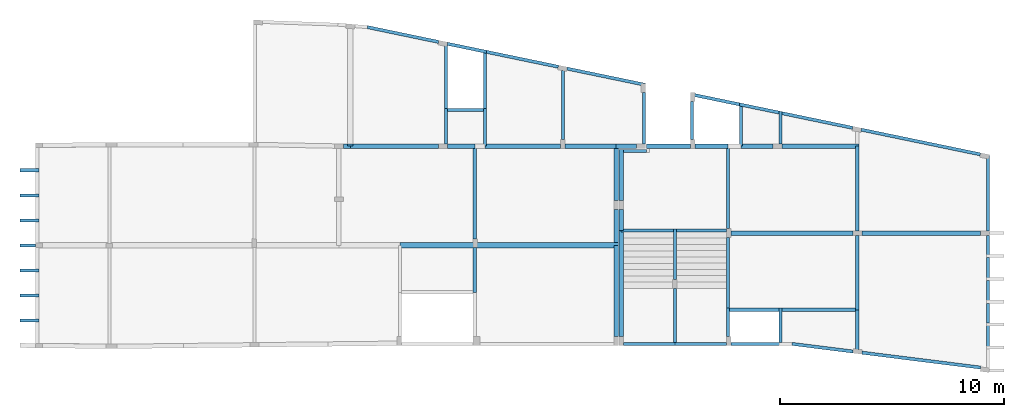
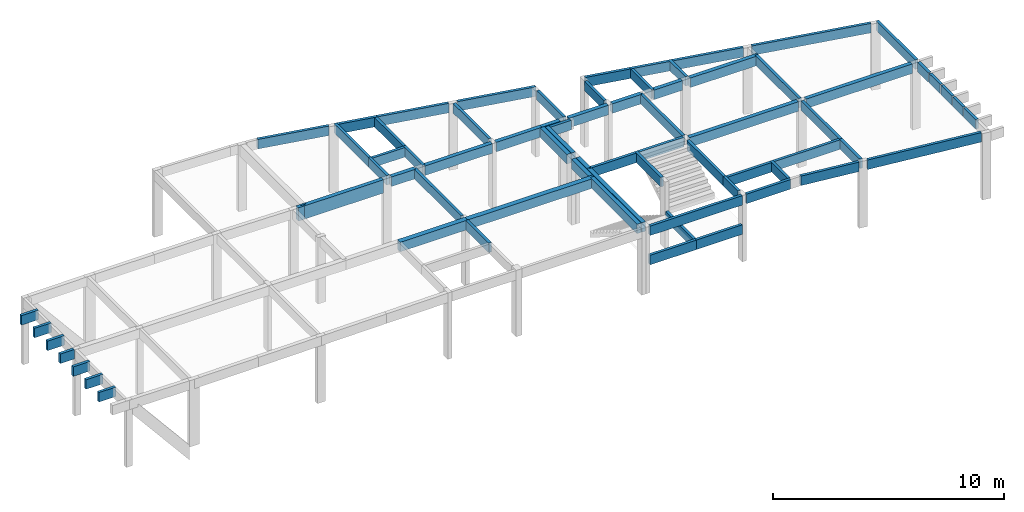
# One storey, part 2 of 4: 74 beams.
"""IFC4 building model written with IfcOpenShell, lengths in centimetres."""

from ifc_helpers import new_model, si_unit, derived_unit, frame, origin, origin_with_axes, origin_2d_with_axis, place, context, project, spatial, rectangle, extrude, clip, halfspace, material, element, save


model = new_model("IFC4")

# Units and contexts
model_context = context("Model", 3, precision=1e-05, world=origin_with_axes(), identifier="Body")
ifc_project = project(units=[si_unit("LENGTHUNIT", "METRE", prefix="CENTI"), si_unit("VOLUMEUNIT", "CUBIC_METRE"), si_unit("AREAUNIT", "SQUARE_METRE"), si_unit("POWERUNIT", "WATT"), si_unit("LUMINOUSFLUXUNIT", "LUMEN"), si_unit("ELECTRICCURRENTUNIT", "AMPERE"), si_unit("PRESSUREUNIT", "PASCAL", prefix="KILO"), si_unit("MASSUNIT", "GRAM", prefix="KILO"), si_unit("PLANEANGLEUNIT", "RADIAN"), derived_unit("VOLUMETRICFLOWRATEUNIT", [(si_unit("LENGTHUNIT", "METRE"), 3), (si_unit("TIMEUNIT", "SECOND"), -1)])], contexts=[model_context])

# Site, building, storey
site_placement = place(None, origin_with_axes())
site = spatial("IfcSite", under=ifc_project, at=site_placement)
building_placement = place(site_placement, origin())
building = spatial("IfcBuilding", under=site, at=building_placement)
placement_1 = place(building_placement, origin_with_axes())
placement_2 = place(placement_1, frame((0.0, 0.0, 550.0), z_axis=(0.0, 0.0, 1.0), x_axis=(1.0, 0.0, 0.0)))
placement_3 = place(placement_2, frame((0.0, 0.0, 350.0), z_axis=(0.0, 0.0, 1.0), x_axis=(1.0, 0.0, 0.0)))
storey_placement = place(placement_3, frame((0.0, 0.0, 350.0), z_axis=(0.0, 0.0, 1.0), x_axis=(1.0, 0.0, 0.0)))
storey = spatial("IfcBuildingStorey", under=building, at=storey_placement, Name="2º PAV.", CompositionType="ELEMENT", Elevation=1250.0)

# Beams
ifc_material = material(Name="Concreto")
for number, where, z_axis, x_axis in (
    (1, (2788.6, -1337.1, -154.5), (0.0, 0.0, 1.0), (1.0, 0.0, 0.0)),
    (2, (3018.6, -1337.1, -154.5), (0.0, 0.0, 1.0), (1.0, 0.0, 0.0)),
):
    element("IfcBeam", number, at=place(storey_placement, frame(where, z_axis=z_axis, x_axis=x_axis)), inside=storey, material=ifc_material, Name="V.ESCADA1", context=model_context, shape_type="SolidModel", body=[
        extrude(rectangle(XDim=14.0, YDim=50.0, at=origin_2d_with_axis()), frame((-115.0, 0.0, -25.0), z_axis=(1.0, 0.0, 0.0), x_axis=(0.0, 1.0, 0.0)), (0.0, 0.0, 1.0), 230.0),
    ])
beam_1_placement = place(storey_placement, frame((2903.6, -1213.6, -154.5), z_axis=(0.0, 0.0, 1.0), x_axis=(1.0, 0.0, 0.0)))
element("IfcBeam", 3, at=beam_1_placement, inside=storey, material=ifc_material, Name="V.ESCADA2", context=model_context, shape_type="SolidModel", body=[
    extrude(rectangle(XDim=14.0, YDim=50.0, at=origin_2d_with_axis()), frame((0.0, -123.5, -25.0), z_axis=(0.0, 1.0, 0.0), x_axis=(1.0, 0.0, 0.0)), (0.0, 0.0, 1.0), 247.0),
])
beam_2_placement = place(storey_placement, frame((1971.0, -294.95, 0.0), z_axis=(0.0, 0.0, 1.0), x_axis=(1.0, 0.0, 0.0)))
element("IfcBeam", 4, at=beam_2_placement, inside=storey, material=ifc_material, Name="V1", context=model_context, shape_type="SolidModel", body=[
    extrude(rectangle(XDim=14.0, YDim=50.0, at=origin_2d_with_axis()), frame((-80.0, 0.0, -25.0), z_axis=(1.0, 0.0, 0.0), x_axis=(0.0, 1.0, 0.0)), (0.0, 0.0, 1.0), 160.0),
])
beam_3_placement = place(storey_placement, frame((3425.1, -843.1, 0.0), z_axis=(0.0, 0.0, 1.0), x_axis=(1.0, 0.0, 0.0)))
element("IfcBeam", 5, at=beam_3_placement, inside=storey, material=ifc_material, Name="V10", context=model_context, shape_type="SolidModel", body=[
    extrude(rectangle(XDim=20.0, YDim=50.0, at=origin_2d_with_axis()), frame((-271.5, 0.0, -25.0), z_axis=(1.0, 0.0, 0.0), x_axis=(0.0, 1.0, 0.0)), (0.0, 0.0, 1.0), 543.0),
])
beam_4_placement = place(storey_placement, frame((4001.1, -843.1, 0.0), z_axis=(0.0, 0.0, 1.0), x_axis=(1.0, 0.0, 0.0)))
element("IfcBeam", 6, at=beam_4_placement, inside=storey, material=ifc_material, Name="V10", context=model_context, shape_type="SolidModel", body=[
    extrude(rectangle(XDim=20.0, YDim=50.0, at=origin_2d_with_axis()), frame((-264.5, 0.0, -25.0), z_axis=(1.0, 0.0, 0.0), x_axis=(0.0, 1.0, 0.0)), (0.0, 0.0, 1.0), 529.0),
])
beam_5_placement = place(storey_placement, frame((19.575, -898.05, 0.0), z_axis=(0.0, 0.0, 1.0), x_axis=(1.0, 0.0, 0.0)))
element("IfcBeam", 7, at=beam_5_placement, inside=storey, material=ifc_material, Name="V12", context=model_context, shape_type="SolidModel", body=[
    extrude(rectangle(XDim=14.0, YDim=50.0, at=origin_2d_with_axis()), frame((-34.975, 0.0, -25.0), z_axis=(1.0, 0.0, 0.0), x_axis=(0.0, -1.0, 0.0)), (0.0, 0.0, 1.0), 69.95),
])
beam_6_placement = place(storey_placement, frame((2333.1, -898.02, 0.0), z_axis=(0.0, 0.0, 1.0), x_axis=(1.0, 0.0, 0.0)))
element("IfcBeam", 8, at=beam_6_placement, inside=storey, material=ifc_material, Name="V13", context=model_context, shape_type="SolidModel", body=[
    extrude(rectangle(XDim=25.0, YDim=50.0, at=origin_2d_with_axis()), frame((-318.5, 0.0, -25.0), z_axis=(1.0, 0.0, 0.0), x_axis=(0.0, 1.0, 0.0)), (0.0, 0.0, 1.0), 637.0),
])
beam_7_placement = place(storey_placement, frame((1846.1, -898.02, 0.0), z_axis=(0.0, 0.0, 1.0), x_axis=(1.0, 0.0, 0.0)))
element("IfcBeam", 9, at=beam_7_placement, inside=storey, material=ifc_material, Name="V13", context=model_context, shape_type="SolidModel", body=[
    extrude(rectangle(XDim=25.0, YDim=50.0, at=origin_2d_with_axis()), frame((-168.5, 0.0, -25.0), z_axis=(1.0, 0.0, 0.0), x_axis=(0.0, 1.0, 0.0)), (0.0, 0.0, 1.0), 337.0),
])
for number, where, z_axis, x_axis, name in (
    (10, (26.6, -1009.6, 0.0), (0.0, 0.0, 1.0), (1.0, 0.0, 0.0), "V15"),
    (11, (26.6, -1121.2, 0.0), (0.0, 0.0, 1.0), (1.0, 0.0, 0.0), "V17"),
):
    element("IfcBeam", number, at=place(storey_placement, frame(where, z_axis=z_axis, x_axis=x_axis)), inside=storey, material=ifc_material, Name=name, context=model_context, shape_type="SolidModel", body=[
        extrude(rectangle(XDim=14.0, YDim=50.0, at=origin_2d_with_axis()), frame((-42.0, 0.0, -25.0), z_axis=(1.0, 0.0, 0.0), x_axis=(0.0, -1.0, 0.0)), (0.0, 0.0, 1.0), 84.0),
    ])
beam_8_placement = place(storey_placement, frame((3545.6, -1184.9, 0.0), z_axis=(0.0, 0.0, 1.0), x_axis=(1.0, 0.0, 0.0)))
element("IfcBeam", 12, at=beam_8_placement, inside=storey, material=ifc_material, Name="V19", context=model_context, shape_type="SolidModel", body=[
    extrude(rectangle(XDim=14.0, YDim=50.0, at=origin_2d_with_axis()), frame((-171.0, 0.0, -25.0), z_axis=(1.0, 0.0, 0.0), x_axis=(0.0, 1.0, 0.0)), (0.0, 0.0, 1.0), 342.0),
])
beam_9_placement = place(storey_placement, frame((3257.6, -1184.9, 0.0), z_axis=(0.0, 0.0, 1.0), x_axis=(1.0, 0.0, 0.0)))
element("IfcBeam", 13, at=beam_9_placement, inside=storey, material=ifc_material, Name="V19", context=model_context, shape_type="SolidModel", body=[
    extrude(rectangle(XDim=14.0, YDim=50.0, at=origin_2d_with_axis()), frame((-110.0, 0.0, -25.0), z_axis=(1.0, 0.0, 0.0), x_axis=(0.0, 1.0, 0.0)), (0.0, 0.0, 1.0), 220.0),
])
beam_10_placement = place(storey_placement, frame((26.6, -1232.8, 0.0), z_axis=(0.0, 0.0, 1.0), x_axis=(1.0, 0.0, 0.0)))
element("IfcBeam", 14, at=beam_10_placement, inside=storey, material=ifc_material, Name="V21", context=model_context, shape_type="SolidModel", body=[
    extrude(rectangle(XDim=14.0, YDim=50.0, at=origin_2d_with_axis()), frame((-42.0, 0.0, -25.0), z_axis=(1.0, 0.0, 0.0), x_axis=(0.0, -1.0, 0.0)), (0.0, 0.0, 1.0), 84.0),
])
beam_11_placement = place(storey_placement, frame((1441.55, -455.9, 0.0), z_axis=(0.0, 0.0, 1.0), x_axis=(1.0, 0.0, 0.0)))
element("IfcBeam", 15, at=beam_11_placement, inside=storey, material=ifc_material, Name="V3", context=model_context, shape_type="SolidModel", body=[
    extrude(rectangle(XDim=20.0, YDim=70.0, at=origin_2d_with_axis()), frame((-15.55, 0.0, -35.0), z_axis=(1.0, 0.0, 0.0), x_axis=(0.0, 1.0, 0.0)), (0.0, 0.0, 1.0), 31.1),
])
beam_12_placement = place(storey_placement, frame((1654.05, -455.9, 0.0), z_axis=(0.0, 0.0, 1.0), x_axis=(1.0, 0.0, 0.0)))
element("IfcBeam", 16, at=beam_12_placement, inside=storey, material=ifc_material, Name="V3", context=model_context, shape_type="SolidModel", body=[
    extrude(rectangle(XDim=20.0, YDim=70.0, at=origin_2d_with_axis()), frame((-196.95, 0.0, -35.0), z_axis=(1.0, 0.0, 0.0), x_axis=(0.0, 1.0, 0.0)), (0.0, 0.0, 1.0), 393.9),
])
beam_13_placement = place(storey_placement, frame((1951.3, -455.9, 0.0), z_axis=(0.0, 0.0, 1.0), x_axis=(1.0, 0.0, 0.0)))
element("IfcBeam", 17, at=beam_13_placement, inside=storey, material=ifc_material, Name="V3", context=model_context, shape_type="SolidModel", body=[
    extrude(rectangle(XDim=20.0, YDim=50.0, at=origin_2d_with_axis()), frame((-60.3, 0.0, -25.0), z_axis=(1.0, 0.0, 0.0), x_axis=(0.0, 1.0, 0.0)), (0.0, 0.0, 1.0), 120.6),
])
beam_14_placement = place(storey_placement, frame((2226.25, -455.9, 0.0), z_axis=(0.0, 0.0, 1.0), x_axis=(1.0, 0.0, 0.0)))
element("IfcBeam", 18, at=beam_14_placement, inside=storey, material=ifc_material, Name="V3", context=model_context, shape_type="SolidModel", body=[
    extrude(rectangle(XDim=20.0, YDim=50.0, at=origin_2d_with_axis()), frame((-168.25, 0.0, -25.0), z_axis=(1.0, 0.0, 0.0), x_axis=(0.0, 1.0, 0.0)), (0.0, 0.0, 1.0), 336.5),
])
beam_15_placement = place(storey_placement, frame((2528.05, -455.9, 0.0), z_axis=(0.0, 0.0, 1.0), x_axis=(1.0, 0.0, 0.0)))
element("IfcBeam", 19, at=beam_15_placement, inside=storey, material=ifc_material, Name="V3", context=model_context, shape_type="SolidModel", body=[
    extrude(rectangle(XDim=20.0, YDim=50.0, at=origin_2d_with_axis()), frame((-113.55, 0.0, -25.0), z_axis=(1.0, 0.0, 0.0), x_axis=(0.0, 1.0, 0.0)), (0.0, 0.0, 1.0), 227.1),
])
beam_16_placement = place(storey_placement, frame((2687.3, -455.9, 0.0), z_axis=(0.0, 0.0, 1.0), x_axis=(1.0, 0.0, 0.0)))
element("IfcBeam", 20, at=beam_16_placement, inside=storey, material=ifc_material, Name="V3", context=model_context, shape_type="SolidModel", body=[
    extrude(rectangle(XDim=20.0, YDim=50.0, at=origin_2d_with_axis()), frame((-45.7, 0.0, -25.0), z_axis=(1.0, 0.0, 0.0), x_axis=(0.0, 1.0, 0.0)), (0.0, 0.0, 1.0), 91.4),
])
beam_17_placement = place(storey_placement, frame((1457.1, -450.975, 0.0), z_axis=(0.0, 0.0, 1.0), x_axis=(1.0, 0.0, 0.0)))
element("IfcBeam", 21, at=beam_17_placement, inside=storey, material=ifc_material, Name="V32", context=model_context, shape_type="SolidModel", body=[
    extrude(rectangle(XDim=25.0, YDim=60.0, at=origin_2d_with_axis()), frame((0.0, -4.925, -30.0), z_axis=(0.0, 1.0, 0.0), x_axis=(1.0, 0.0, 0.0)), (0.0, 0.0, 1.0), 9.85),
])
beam_18_placement = place(storey_placement, frame((1884.0, -366.925, 0.0), z_axis=(0.0, 0.0, 1.0), x_axis=(1.0, 0.0, 0.0)))
element("IfcBeam", 22, at=beam_18_placement, inside=storey, material=ifc_material, Name="V34", context=model_context, shape_type="SolidModel", body=[
    extrude(rectangle(XDim=14.0, YDim=50.0, at=origin_2d_with_axis()), frame((0.0, -78.975, -25.0), z_axis=(0.0, 1.0, 0.0), x_axis=(1.0, 0.0, 0.0)), (0.0, 0.0, 1.0), 157.95),
])
beam_19_placement = place(storey_placement, frame((1884.0, -143.68, 0.0), z_axis=(0.0, 0.0, 1.0), x_axis=(1.0, 0.0, 0.0)))
element("IfcBeam", 23, at=beam_19_placement, inside=storey, material=ifc_material, Name="V34", context=model_context, shape_type="SolidModel", body=[
    extrude(rectangle(XDim=14.0, YDim=50.0, at=origin_2d_with_axis()), frame((0.0, -151.27, -25.0), z_axis=(0.0, 1.0, 0.0), x_axis=(1.0, 0.0, 0.0)), (0.0, 0.0, 1.0), 302.54),
])
beam_20_placement = place(storey_placement, frame((2011.6, -662.15, 0.0), z_axis=(0.0, 0.0, 1.0), x_axis=(1.0, 0.0, 0.0)))
element("IfcBeam", 24, at=beam_20_placement, inside=storey, material=ifc_material, Name="V35", context=model_context, shape_type="SolidModel", body=[
    extrude(rectangle(XDim=14.0, YDim=50.0, at=origin_2d_with_axis()), frame((0.0, -206.25, -25.0), z_axis=(0.0, 1.0, 0.0), x_axis=(1.0, 0.0, 0.0)), (0.0, 0.0, 1.0), 412.5),
])
beam_21_placement = place(storey_placement, frame((2011.6, -1007.65, 0.0), z_axis=(0.0, 0.0, 1.0), x_axis=(1.0, 0.0, 0.0)))
element("IfcBeam", 25, at=beam_21_placement, inside=storey, material=ifc_material, Name="V35", context=model_context, shape_type="SolidModel", body=[
    extrude(rectangle(XDim=14.0, YDim=50.0, at=origin_2d_with_axis()), frame((0.0, -99.25, -25.0), z_axis=(0.0, 1.0, 0.0), x_axis=(1.0, 0.0, 0.0)), (0.0, 0.0, 1.0), 198.5),
])
beam_22_placement = place(storey_placement, frame((2058.0, -371.925, 0.0), z_axis=(0.0, 0.0, 1.0), x_axis=(1.0, 0.0, 0.0)))
element("IfcBeam", 26, at=beam_22_placement, inside=storey, material=ifc_material, Name="V36", context=model_context, shape_type="SolidModel", body=[
    extrude(rectangle(XDim=14.0, YDim=50.0, at=origin_2d_with_axis()), frame((0.0, -83.975, -25.0), z_axis=(0.0, 1.0, 0.0), x_axis=(1.0, 0.0, 0.0)), (0.0, 0.0, 1.0), 167.95),
])
beam_23_placement = place(storey_placement, frame((2058.0, -167.44325719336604, 0.0), z_axis=(0.0, 0.0, 1.0), x_axis=(1.0, 0.0, 0.0)))
element("IfcBeam", 27, at=beam_23_placement, inside=storey, material=ifc_material, Name="V36", context=model_context, shape_type="Clipping", body=[
    clip(extrude(rectangle(XDim=14.0, YDim=50.0, at=origin_2d_with_axis()), frame((0.0, -127.50674280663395, -25.0), z_axis=(0.0, 1.0, 0.0), x_axis=(1.0, 0.0, 0.0)), (0.0, 0.0, 1.0), 255.01348561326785), halfspace(frame((-7.0, 127.5067428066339, -50.0), z_axis=(-0.203188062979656, -0.979139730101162, 0.0), x_axis=(0.0, 0.0, -0.203188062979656)), True)),
])
beam_24_placement = place(storey_placement, frame((2404.5, -271.943363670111, 0.0), z_axis=(0.0, 0.0, 1.0), x_axis=(1.0, 0.0, 0.0)))
element("IfcBeam", 28, at=beam_24_placement, inside=storey, material=ifc_material, Name="V37", context=model_context, shape_type="SolidModel", body=[
    extrude(rectangle(XDim=14.0, YDim=50.0, at=origin_2d_with_axis()), frame((0.0, -153.95663632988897, -25.0), z_axis=(0.0, 1.0, 0.0), x_axis=(1.0, 0.0, 0.0)), (0.0, 0.0, 1.0), 307.91327265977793),
])
beam_25_placement = place(storey_placement, frame((2663.6, -1067.6, 0.0), z_axis=(0.0, 0.0, 1.0), x_axis=(1.0, 0.0, 0.0)))
element("IfcBeam", 29, at=beam_25_placement, inside=storey, material=ifc_material, Name="V38", context=model_context, shape_type="SolidModel", body=[
    extrude(rectangle(XDim=20.0, YDim=50.0, at=origin_2d_with_axis()), frame((0.0, -236.5, -25.0), z_axis=(0.0, 1.0, 0.0), x_axis=(1.0, 0.0, 0.0)), (0.0, 0.0, 1.0), 473.0),
])
beam_26_placement = place(storey_placement, frame((2663.6, -784.6, 0.0), z_axis=(0.0, 0.0, 1.0), x_axis=(1.0, 0.0, 0.0)))
element("IfcBeam", 30, at=beam_26_placement, inside=storey, material=ifc_material, Name="V38", context=model_context, shape_type="SolidModel", body=[
    extrude(rectangle(XDim=20.0, YDim=50.0, at=origin_2d_with_axis()), frame((0.0, -46.5, -25.0), z_axis=(0.0, 1.0, 0.0), x_axis=(1.0, 0.0, 0.0)), (0.0, 0.0, 1.0), 93.0),
])
beam_27_placement = place(storey_placement, frame((2663.6, -584.025, 0.0), z_axis=(0.0, 0.0, 1.0), x_axis=(1.0, 0.0, 0.0)))
element("IfcBeam", 31, at=beam_27_placement, inside=storey, material=ifc_material, Name="V38", context=model_context, shape_type="SolidModel", body=[
    extrude(rectangle(XDim=20.0, YDim=50.0, at=origin_2d_with_axis()), frame((0.0, -114.075, -25.0), z_axis=(0.0, 1.0, 0.0), x_axis=(1.0, 0.0, 0.0)), (0.0, 0.0, 1.0), 228.15),
])
beam_28_placement = place(storey_placement, frame((2641.6, -577.0, 0.0), z_axis=(0.0, 0.0, 1.0), x_axis=(1.0, 0.0, 0.0)))
element("IfcBeam", 32, at=beam_28_placement, inside=storey, material=ifc_material, Name="V39", context=model_context, shape_type="SolidModel", body=[
    extrude(rectangle(XDim=20.0, YDim=50.0, at=origin_2d_with_axis()), frame((0.0, -121.1, -25.0), z_axis=(0.0, 1.0, 0.0), x_axis=(1.0, 0.0, 0.0)), (0.0, 0.0, 1.0), 242.2),
])
beam_29_placement = place(storey_placement, frame((2641.6, -811.81, 0.0), z_axis=(0.0, 0.0, 1.0), x_axis=(1.0, 0.0, 0.0)))
element("IfcBeam", 33, at=beam_29_placement, inside=storey, material=ifc_material, Name="V39", context=model_context, shape_type="SolidModel", body=[
    extrude(rectangle(XDim=20.0, YDim=50.0, at=origin_2d_with_axis()), frame((0.0, -73.71, -25.0), z_axis=(0.0, 1.0, 0.0), x_axis=(1.0, 0.0, 0.0)), (0.0, 0.0, 1.0), 147.42),
])
beam_30_placement = place(storey_placement, frame((2641.6, -1101.06, 0.0), z_axis=(0.0, 0.0, 1.0), x_axis=(1.0, 0.0, 0.0)))
element("IfcBeam", 34, at=beam_30_placement, inside=storey, material=ifc_material, Name="V39", context=model_context, shape_type="SolidModel", body=[
    extrude(rectangle(XDim=20.0, YDim=50.0, at=origin_2d_with_axis()), frame((0.0, -203.04, -25.0), z_axis=(0.0, 1.0, 0.0), x_axis=(1.0, 0.0, 0.0)), (0.0, 0.0, 1.0), 406.08),
])
beam_31_placement = place(storey_placement, frame((2725.3, -476.95, 0.0), z_axis=(0.0, 0.0, 1.0), x_axis=(1.0, 0.0, 0.0)))
element("IfcBeam", 35, at=beam_31_placement, inside=storey, material=ifc_material, Name="V4", context=model_context, shape_type="SolidModel", body=[
    extrude(rectangle(XDim=14.0, YDim=50.0, at=origin_2d_with_axis()), frame((-51.7, 0.0, -25.0), z_axis=(1.0, 0.0, 0.0), x_axis=(0.0, 1.0, 0.0)), (0.0, 0.0, 1.0), 103.4),
])
beam_32_placement = place(storey_placement, frame((2766.0, -330.695, 0.0), z_axis=(0.0, 0.0, 1.0), x_axis=(1.0, 0.0, 0.0)))
element("IfcBeam", 36, at=beam_32_placement, inside=storey, material=ifc_material, Name="V41", context=model_context, shape_type="SolidModel", body=[
    extrude(rectangle(XDim=14.0, YDim=50.0, at=origin_2d_with_axis()), frame((0.0, -115.205, -25.0), z_axis=(0.0, 1.0, 0.0), x_axis=(1.0, 0.0, 0.0)), (0.0, 0.0, 1.0), 230.41),
])
beam_33_placement = place(storey_placement, frame((2903.6, -937.1, 0.0), z_axis=(0.0, 0.0, 1.0), x_axis=(1.0, 0.0, 0.0)))
element("IfcBeam", 37, at=beam_33_placement, inside=storey, material=ifc_material, Name="V42", context=model_context, shape_type="SolidModel", body=[
    extrude(rectangle(XDim=14.0, YDim=50.0, at=origin_2d_with_axis()), frame((0.0, -113.0, -25.0), z_axis=(0.0, 1.0, 0.0), x_axis=(1.0, 0.0, 0.0)), (0.0, 0.0, 1.0), 226.0),
])
beam_34_placement = place(storey_placement, frame((2980.0, -341.45, 0.0), z_axis=(0.0, 0.0, 1.0), x_axis=(1.0, 0.0, 0.0)))
element("IfcBeam", 38, at=beam_34_placement, inside=storey, material=ifc_material, Name="V43", context=model_context, shape_type="SolidModel", body=[
    extrude(rectangle(XDim=14.0, YDim=50.0, at=origin_2d_with_axis()), frame((0.0, -84.45, -25.0), z_axis=(0.0, 1.0, 0.0), x_axis=(1.0, 0.0, 0.0)), (0.0, 0.0, 1.0), 168.9),
])
beam_35_placement = place(storey_placement, frame((3140.6, -1241.0, 0.0), z_axis=(0.0, 0.0, 1.0), x_axis=(1.0, 0.0, 0.0)))
element("IfcBeam", 39, at=beam_35_placement, inside=storey, material=ifc_material, Name="V44", context=model_context, shape_type="SolidModel", body=[
    extrude(rectangle(XDim=14.0, YDim=50.0, at=origin_2d_with_axis()), frame((0.0, -63.1, -25.0), z_axis=(0.0, 1.0, 0.0), x_axis=(1.0, 0.0, 0.0)), (0.0, 0.0, 1.0), 126.2),
])
beam_36_placement = place(storey_placement, frame((3140.6, -639.75, 0.0), z_axis=(0.0, 0.0, 1.0), x_axis=(1.0, 0.0, 0.0)))
element("IfcBeam", 40, at=beam_36_placement, inside=storey, material=ifc_material, Name="V44", context=model_context, shape_type="SolidModel", body=[
    extrude(rectangle(XDim=14.0, YDim=50.0, at=origin_2d_with_axis()), frame((0.0, -183.85, -25.0), z_axis=(0.0, 1.0, 0.0), x_axis=(1.0, 0.0, 0.0)), (0.0, 0.0, 1.0), 367.7),
])
beam_37_placement = place(storey_placement, frame((3140.6, -1024.25, 0.0), z_axis=(0.0, 0.0, 1.0), x_axis=(1.0, 0.0, 0.0)))
element("IfcBeam", 41, at=beam_37_placement, inside=storey, material=ifc_material, Name="V44", context=model_context, shape_type="SolidModel", body=[
    extrude(rectangle(XDim=14.0, YDim=50.0, at=origin_2d_with_axis()), frame((0.0, -160.65, -25.0), z_axis=(0.0, 1.0, 0.0), x_axis=(1.0, 0.0, 0.0)), (0.0, 0.0, 1.0), 321.3),
])
beam_38_placement = place(storey_placement, frame((3199.0, -366.3280979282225, 0.0), z_axis=(0.0, 0.0, 1.0), x_axis=(1.0, 0.0, 0.0)))
element("IfcBeam", 42, at=beam_38_placement, inside=storey, material=ifc_material, Name="V45", context=model_context, shape_type="Clipping", body=[
    clip(extrude(rectangle(XDim=14.0, YDim=50.0, at=origin_2d_with_axis()), frame((0.0, -89.57190207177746, -25.0), z_axis=(0.0, 1.0, 0.0), x_axis=(1.0, 0.0, 0.0)), (0.0, 0.0, 1.0), 179.14380414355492), halfspace(frame((-7.0, 89.57190207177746, -50.0), z_axis=(-0.203241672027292, -0.979128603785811, 0.0), x_axis=(0.0, 0.0, -0.203241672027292)), True)),
])
beam_39_placement = place(storey_placement, frame((3374.6, -1253.980675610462, 0.0), z_axis=(0.0, 0.0, 1.0), x_axis=(1.0, 0.0, 0.0)))
element("IfcBeam", 43, at=beam_39_placement, inside=storey, material=ifc_material, Name="V46", context=model_context, shape_type="SolidModel", body=[
    extrude(rectangle(XDim=14.0, YDim=50.0, at=origin_2d_with_axis()), frame((0.0, -76.08067561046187, -25.0), z_axis=(0.0, 1.0, 0.0), x_axis=(1.0, 0.0, 0.0)), (0.0, 0.0, 1.0), 152.16135122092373),
])
beam_40_placement = place(storey_placement, frame((3374.6, -372.4038838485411, 0.0), z_axis=(0.0, 0.0, 1.0), x_axis=(1.0, 0.0, 0.0)))
element("IfcBeam", 44, at=beam_40_placement, inside=storey, material=ifc_material, Name="V47", context=model_context, shape_type="Clipping", body=[
    clip(extrude(rectangle(XDim=14.0, YDim=50.0, at=origin_2d_with_axis()), frame((0.0, -73.49611615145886, -25.0), z_axis=(0.0, 1.0, 0.0), x_axis=(1.0, 0.0, 0.0)), (0.0, 0.0, 1.0), 146.99223230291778), halfspace(frame((-7.0, 73.49611615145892, -50.0), z_axis=(-0.203241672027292, -0.979128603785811, 0.0), x_axis=(0.0, 0.0, -0.203241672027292)), True)),
])
beam_41_placement = place(storey_placement, frame((3716.6, -644.5, 0.0), z_axis=(0.0, 0.0, 1.0), x_axis=(1.0, 0.0, 0.0)))
element("IfcBeam", 45, at=beam_41_placement, inside=storey, material=ifc_material, Name="V48", context=model_context, shape_type="SolidModel", body=[
    extrude(rectangle(XDim=14.0, YDim=50.0, at=origin_2d_with_axis()), frame((0.0, -188.6, -25.0), z_axis=(0.0, 1.0, 0.0), x_axis=(1.0, 0.0, 0.0)), (0.0, 0.0, 1.0), 377.2),
])
beam_42_placement = place(storey_placement, frame((3716.6, -1019.0, 0.0), z_axis=(0.0, 0.0, 1.0), x_axis=(1.0, 0.0, 0.0)))
element("IfcBeam", 46, at=beam_42_placement, inside=storey, material=ifc_material, Name="V48", context=model_context, shape_type="SolidModel", body=[
    extrude(rectangle(XDim=14.0, YDim=50.0, at=origin_2d_with_axis()), frame((0.0, -165.9, -25.0), z_axis=(0.0, 1.0, 0.0), x_axis=(1.0, 0.0, 0.0)), (0.0, 0.0, 1.0), 331.8),
])
beam_43_placement = place(storey_placement, frame((3716.6, -1273.0826731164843, 0.0), z_axis=(0.0, 0.0, 1.0), x_axis=(1.0, 0.0, 0.0)))
element("IfcBeam", 47, at=beam_43_placement, inside=storey, material=ifc_material, Name="V48", context=model_context, shape_type="SolidModel", body=[
    extrude(rectangle(XDim=14.0, YDim=50.0, at=origin_2d_with_axis()), frame((0.0, -88.18267311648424, -25.0), z_axis=(0.0, 1.0, 0.0), x_axis=(1.0, 0.0, 0.0)), (0.0, 0.0, 1.0), 176.36534623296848),
])
beam_44_placement = place(storey_placement, frame((4298.6, -899.1, 0.0), z_axis=(0.0, 0.0, 1.0), x_axis=(1.0, 0.0, 0.0)))
element("IfcBeam", 48, at=beam_44_placement, inside=storey, material=ifc_material, Name="V49", context=model_context, shape_type="SolidModel", body=[
    extrude(rectangle(XDim=14.0, YDim=50.0, at=origin_2d_with_axis()), frame((0.0, -46.0, -25.0), z_axis=(0.0, 1.0, 0.0), x_axis=(1.0, 0.0, 0.0)), (0.0, 0.0, 1.0), 92.0),
])
beam_45_placement = place(storey_placement, frame((4298.6, -1200.15, 0.0), z_axis=(0.0, 0.0, 1.0), x_axis=(1.0, 0.0, 0.0)))
element("IfcBeam", 49, at=beam_45_placement, inside=storey, material=ifc_material, Name="V49", context=model_context, shape_type="SolidModel", body=[
    extrude(rectangle(XDim=14.0, YDim=50.0, at=origin_2d_with_axis()), frame((0.0, -44.0, -25.0), z_axis=(0.0, 1.0, 0.0), x_axis=(1.0, 0.0, 0.0)), (0.0, 0.0, 1.0), 88.0),
])
beam_46_placement = place(storey_placement, frame((4298.6, -1101.65, 0.0), z_axis=(0.0, 0.0, 1.0), x_axis=(1.0, 0.0, 0.0)))
element("IfcBeam", 50, at=beam_46_placement, inside=storey, material=ifc_material, Name="V49", context=model_context, shape_type="SolidModel", body=[
    extrude(rectangle(XDim=14.0, YDim=50.0, at=origin_2d_with_axis()), frame((0.0, -47.5, -25.0), z_axis=(0.0, 1.0, 0.0), x_axis=(1.0, 0.0, 0.0)), (0.0, 0.0, 1.0), 95.0),
])
beam_47_placement = place(storey_placement, frame((4298.6, -663.35, 0.0), z_axis=(0.0, 0.0, 1.0), x_axis=(1.0, 0.0, 0.0)))
element("IfcBeam", 51, at=beam_47_placement, inside=storey, material=ifc_material, Name="V49", context=model_context, shape_type="SolidModel", body=[
    extrude(rectangle(XDim=14.0, YDim=50.0, at=origin_2d_with_axis()), frame((0.0, -169.75, -25.0), z_axis=(0.0, 1.0, 0.0), x_axis=(1.0, 0.0, 0.0)), (0.0, 0.0, 1.0), 339.5),
])
beam_48_placement = place(storey_placement, frame((4298.6, -999.625, 0.0), z_axis=(0.0, 0.0, 1.0), x_axis=(1.0, 0.0, 0.0)))
element("IfcBeam", 52, at=beam_48_placement, inside=storey, material=ifc_material, Name="V49", context=model_context, shape_type="SolidModel", body=[
    extrude(rectangle(XDim=14.0, YDim=50.0, at=origin_2d_with_axis()), frame((0.0, -47.525, -25.0), z_axis=(0.0, 1.0, 0.0), x_axis=(1.0, 0.0, 0.0)), (0.0, 0.0, 1.0), 95.05),
])
beam_49_placement = place(storey_placement, frame((4298.6, -1302.175, 0.0), z_axis=(0.0, 0.0, 1.0), x_axis=(1.0, 0.0, 0.0)))
element("IfcBeam", 53, at=beam_49_placement, inside=storey, material=ifc_material, Name="V49", context=model_context, shape_type="SolidModel", body=[
    extrude(rectangle(XDim=14.0, YDim=50.0, at=origin_2d_with_axis()), frame((0.0, -51.025, -25.0), z_axis=(0.0, 1.0, 0.0), x_axis=(1.0, 0.0, 0.0)), (0.0, 0.0, 1.0), 102.05),
])
beam_50_placement = place(storey_placement, frame((3552.6, -455.9, 0.0), z_axis=(0.0, 0.0, 1.0), x_axis=(1.0, 0.0, 0.0)))
element("IfcBeam", 54, at=beam_50_placement, inside=storey, material=ifc_material, Name="V5", context=model_context, shape_type="SolidModel", body=[
    extrude(rectangle(XDim=20.0, YDim=50.0, at=origin_2d_with_axis()), frame((-171.0, 0.0, -25.0), z_axis=(1.0, 0.0, 0.0), x_axis=(0.0, 1.0, 0.0)), (0.0, 0.0, 1.0), 342.0),
])
beam_51_placement = place(storey_placement, frame((3270.3, -455.9, 0.0), z_axis=(0.0, 0.0, 1.0), x_axis=(1.0, 0.0, 0.0)))
element("IfcBeam", 55, at=beam_51_placement, inside=storey, material=ifc_material, Name="V5", context=model_context, shape_type="SolidModel", body=[
    extrude(rectangle(XDim=20.0, YDim=50.0, at=origin_2d_with_axis()), frame((-71.3, 0.0, -25.0), z_axis=(1.0, 0.0, 0.0), x_axis=(0.0, 1.0, 0.0)), (0.0, 0.0, 1.0), 142.6),
])
beam_52_placement = place(storey_placement, frame((3066.8, -455.9, 0.0), z_axis=(0.0, 0.0, 1.0), x_axis=(1.0, 0.0, 0.0)))
element("IfcBeam", 56, at=beam_52_placement, inside=storey, material=ifc_material, Name="V5", context=model_context, shape_type="SolidModel", body=[
    extrude(rectangle(XDim=20.0, YDim=50.0, at=origin_2d_with_axis()), frame((-73.8, 0.0, -25.0), z_axis=(1.0, 0.0, 0.0), x_axis=(0.0, 1.0, 0.0)), (0.0, 0.0, 1.0), 147.6),
])
beam_53_placement = place(storey_placement, frame((2875.0, -455.9, 0.0), z_axis=(0.0, 0.0, 1.0), x_axis=(1.0, 0.0, 0.0)))
element("IfcBeam", 57, at=beam_53_placement, inside=storey, material=ifc_material, Name="V5", context=model_context, shape_type="SolidModel", body=[
    extrude(rectangle(XDim=20.0, YDim=50.0, at=origin_2d_with_axis()), frame((-98.0, 0.0, -25.0), z_axis=(1.0, 0.0, 0.0), x_axis=(0.0, 1.0, 0.0)), (0.0, 0.0, 1.0), 196.0),
])
beam_54_placement = place(storey_placement, frame((1691.910693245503, 41.90279632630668, 0.0), z_axis=(0.0, 0.0, 1.0), x_axis=(1.0, 0.0, 0.0)))
element("IfcBeam", 58, at=beam_54_placement, inside=storey, material=ifc_material, Name="V50", context=model_context, shape_type="Clipping", body=[
    clip(extrude(rectangle(XDim=14.0, YDim=50.0, at=origin_2d_with_axis()), frame((-159.3220797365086, 33.0627963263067, -25.0), z_axis=(0.97903401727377, -0.203696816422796, 0.0), x_axis=(0.203696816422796, 0.97903401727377, 0.0)), (0.0, 0.0, 1.0), 324.62752149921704), halfspace(frame((-157.89620202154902, 39.91603444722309, 0.0), z_axis=(0.989480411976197, -0.144666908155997, 0.0), x_axis=(0.0, 0.0, -0.059920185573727)), True)),
])
beam_55_placement = place(storey_placement, frame((1976.5788417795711, -17.63888659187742, 0.0), z_axis=(0.0, 0.0, 1.0), x_axis=(1.0, 0.0, 0.0)))
element("IfcBeam", 59, at=beam_55_placement, inside=storey, material=ifc_material, Name="V50", context=model_context, shape_type="Clipping", body=[
    clip(extrude(rectangle(XDim=14.0, YDim=50.0, at=origin_2d_with_axis()), frame((-86.9988417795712, 18.348886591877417, -25.0), z_axis=(0.979139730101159, -0.203188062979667, 0.0), x_axis=(0.203188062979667, 0.979139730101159, 0.0)), (0.0, 0.0, 1.0), 180.60988743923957), halfspace(frame((88.42115822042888, -10.904599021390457, -50.0), z_axis=(-1.0, 0.0, 0.0), x_axis=(0.0, 0.0, 0.203188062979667)), True)),
])
beam_56_placement = place(storey_placement, frame((2220.895, -68.05, 0.0), z_axis=(0.0, 0.0, 1.0), x_axis=(1.0, 0.0, 0.0)))
element("IfcBeam", 60, at=beam_56_placement, inside=storey, material=ifc_material, Name="V50", context=model_context, shape_type="SolidModel", body=[
    extrude(rectangle(XDim=14.0, YDim=50.0, at=origin_2d_with_axis()), frame((-162.895, 33.81, -25.0), z_axis=(0.979131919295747, -0.203225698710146, 0.0), x_axis=(0.203225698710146, 0.979131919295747, 0.0)), (0.0, 0.0, 1.0), 332.7335097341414),
])
beam_57_placement = place(storey_placement, frame((2597.2596215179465, -146.16697038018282, 0.0), z_axis=(0.0, 0.0, 1.0), x_axis=(1.0, 0.0, 0.0)))
element("IfcBeam", 61, at=beam_57_placement, inside=storey, material=ifc_material, Name="V50", context=model_context, shape_type="SolidModel", body=[
    extrude(rectangle(XDim=14.0, YDim=50.0, at=origin_2d_with_axis()), frame((-174.30962151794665, 36.176970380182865, -25.0), z_axis=(0.979134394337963, -0.20321377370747, 0.0), x_axis=(0.20321377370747, 0.979134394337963, 0.0)), (0.0, 0.0, 1.0), 356.0484087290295),
])
beam_58_placement = place(storey_placement, frame((3095.2888176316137, -249.53741239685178, 0.0), z_axis=(0.0, 0.0, 1.0), x_axis=(1.0, 0.0, 0.0)))
element("IfcBeam", 62, at=beam_58_placement, inside=storey, material=ifc_material, Name="V51", context=model_context, shape_type="SolidModel", body=[
    extrude(rectangle(XDim=14.0, YDim=50.0, at=origin_2d_with_axis()), frame((-103.71118236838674, 21.522587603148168, -25.0), z_axis=(0.979138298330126, -0.203194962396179, 0.0), x_axis=(0.203194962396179, 0.979138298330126, 0.0)), (0.0, 0.0, 1.0), 211.84174400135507),
])
beam_59_placement = place(storey_placement, frame((3279.8, -287.8319817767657, 0.0), z_axis=(0.0, 0.0, 1.0), x_axis=(1.0, 0.0, 0.0)))
element("IfcBeam", 63, at=beam_59_placement, inside=storey, material=ifc_material, Name="V51", context=model_context, shape_type="Clipping", body=[
    clip(clip(extrude(rectangle(XDim=14.0, YDim=50.0, at=origin_2d_with_axis()), frame((-89.22269170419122, 18.52031385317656, -25.0), z_axis=(0.97912860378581, -0.203241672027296, 0.0), x_axis=(0.203241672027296, 0.97912860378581, 0.0)), (0.0, 0.0, 1.0), 182.2491782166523), halfspace(frame((-87.8, 25.374214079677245, 0.0), z_axis=(1.0, 0.0, 0.0), x_axis=(0.0, 0.0, -0.203241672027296)), True)), halfspace(frame((87.8, -11.075785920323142, -50.0), z_axis=(-1.0, 0.0, 0.0), x_axis=(0.0, 0.0, 0.203241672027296)), True)),
])
beam_60_placement = place(storey_placement, frame((3535.095, -340.825, 0.0), z_axis=(0.0, 0.0, 1.0), x_axis=(1.0, 0.0, 0.0)))
element("IfcBeam", 64, at=beam_60_placement, inside=storey, material=ifc_material, Name="V51", context=model_context, shape_type="SolidModel", body=[
    extrude(rectangle(XDim=14.0, YDim=50.0, at=origin_2d_with_axis()), frame((-160.495, 33.315, -25.0), z_axis=(0.979128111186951, -0.203244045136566, 0.0), x_axis=(0.203244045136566, 0.979128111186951, 0.0)), (0.0, 0.0, 1.0), 327.8324831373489),
])
beam_61_placement = place(storey_placement, frame((3999.881337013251, -437.2963152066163, 0.0), z_axis=(0.0, 0.0, 1.0), x_axis=(1.0, 0.0, 0.0)))
element("IfcBeam", 65, at=beam_61_placement, inside=storey, material=ifc_material, Name="V51", context=model_context, shape_type="SolidModel", body=[
    extrude(rectangle(XDim=14.0, YDim=50.0, at=origin_2d_with_axis()), frame((-265.13133701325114, 55.02631520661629, -25.0), z_axis=(0.979134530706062, -0.203213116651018, 0.0), x_axis=(0.203213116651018, 0.979134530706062, 0.0)), (0.0, 0.0, 1.0), 541.5626325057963),
])
beam_62_placement = place(storey_placement, frame((3264.1, -1337.065, 0.0), z_axis=(0.0, 0.0, 1.0), x_axis=(1.0, 0.0, 0.0)))
element("IfcBeam", 66, at=beam_62_placement, inside=storey, material=ifc_material, Name="V52", context=model_context, shape_type="SolidModel", body=[
    extrude(rectangle(XDim=14.0, YDim=50.0, at=origin_2d_with_axis()), frame((-110.5, -0.005, -25.0), z_axis=(1.0, 4.5248868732e-05, 0.0), x_axis=(-4.5248868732e-05, 1.0, 0.0)), (0.0, 0.0, 1.0), 221.0),
])
beam_63_placement = place(storey_placement, frame((2903.6, -1337.085, 0.0), z_axis=(0.0, 0.0, 1.0), x_axis=(1.0, 0.0, 0.0)))
element("IfcBeam", 67, at=beam_63_placement, inside=storey, material=ifc_material, Name="V52", context=model_context, shape_type="SolidModel", body=[
    extrude(rectangle(XDim=14.0, YDim=50.0, at=origin_2d_with_axis()), frame((-230.0, -0.015, -25.0), z_axis=(1.0, 6.5217391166e-05, 0.0), x_axis=(-6.5217391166e-05, 1.0, 0.0)), (0.0, 0.0, 1.0), 460.0),
])
beam_64_placement = place(storey_placement, frame((4001.805, -1409.39, 0.0), z_axis=(0.0, 0.0, 1.0), x_axis=(1.0, 0.0, 0.0)))
element("IfcBeam", 68, at=beam_64_placement, inside=storey, material=ifc_material, Name="V52", context=model_context, shape_type="SolidModel", body=[
    extrude(rectangle(XDim=14.0, YDim=50.0, at=origin_2d_with_axis()), frame((-264.485, 33.27, -25.0), z_axis=(0.992180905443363, -0.124808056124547, 0.0), x_axis=(0.124808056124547, 0.992180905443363, 0.0)), (0.0, 0.0, 1.0), 533.1386616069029),
])
beam_65_placement = place(storey_placement, frame((3562.232653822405, -1354.0626518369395, 0.0), z_axis=(0.0, 0.0, 1.0), x_axis=(1.0, 0.0, 0.0)))
element("IfcBeam", 69, at=beam_65_placement, inside=storey, material=ifc_material, Name="V52", context=model_context, shape_type="Clipping", body=[
    clip(extrude(rectangle(XDim=14.0, YDim=50.0, at=origin_2d_with_axis()), frame((-136.2679614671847, 17.067348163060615, -25.0), z_axis=(0.992198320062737, -0.124669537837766, 0.0), x_axis=(0.124669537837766, 0.992198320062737, 0.0)), (0.0, 0.0, 1.0), 273.80141867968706), halfspace(frame((-135.39527470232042, 24.012736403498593, 0.0), z_axis=(0.998053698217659, -0.062360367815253, 0.0), x_axis=(0.0, 0.0, -0.06255304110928)), True)),
])
for number, where, z_axis, x_axis, name in (
    (70, (26.6, -563.3, 0.0), (0.0, 0.0, 1.0), (1.0, 0.0, 0.0), "V6"),
    (71, (26.6, -674.85, 0.0), (0.0, 0.0, 1.0), (1.0, 0.0, 0.0), "V7"),
    (72, (26.6, -786.45, 0.0), (0.0, 0.0, 1.0), (1.0, 0.0, 0.0), "V8"),
):
    element("IfcBeam", number, at=place(storey_placement, frame(where, z_axis=z_axis, x_axis=x_axis)), inside=storey, material=ifc_material, Name=name, context=model_context, shape_type="SolidModel", body=[
        extrude(rectangle(XDim=14.0, YDim=50.0, at=origin_2d_with_axis()), frame((-42.0, 0.0, -25.0), z_axis=(1.0, 0.0, 0.0), x_axis=(0.0, -1.0, 0.0)), (0.0, 0.0, 1.0), 84.0),
    ])
beam_66_placement = place(storey_placement, frame((2780.1, -831.1, 0.0), z_axis=(0.0, 0.0, 1.0), x_axis=(1.0, 0.0, 0.0)))
element("IfcBeam", 73, at=beam_66_placement, inside=storey, material=ifc_material, Name="V9", context=model_context, shape_type="SolidModel", body=[
    extrude(rectangle(XDim=14.0, YDim=50.0, at=origin_2d_with_axis()), frame((-116.5, 0.0, -25.0), z_axis=(1.0, 0.0, 0.0), x_axis=(0.0, 1.0, 0.0)), (0.0, 0.0, 1.0), 233.0),
])
beam_67_placement = place(storey_placement, frame((3018.6, -831.1, 0.0), z_axis=(0.0, 0.0, 1.0), x_axis=(1.0, 0.0, 0.0)))
element("IfcBeam", 74, at=beam_67_placement, inside=storey, material=ifc_material, Name="V9", context=model_context, shape_type="SolidModel", body=[
    extrude(rectangle(XDim=14.0, YDim=50.0, at=origin_2d_with_axis()), frame((-115.0, 0.0, -25.0), z_axis=(1.0, 0.0, 0.0), x_axis=(0.0, 1.0, 0.0)), (0.0, 0.0, 1.0), 230.0),
])

save(model, "model.ifc")
